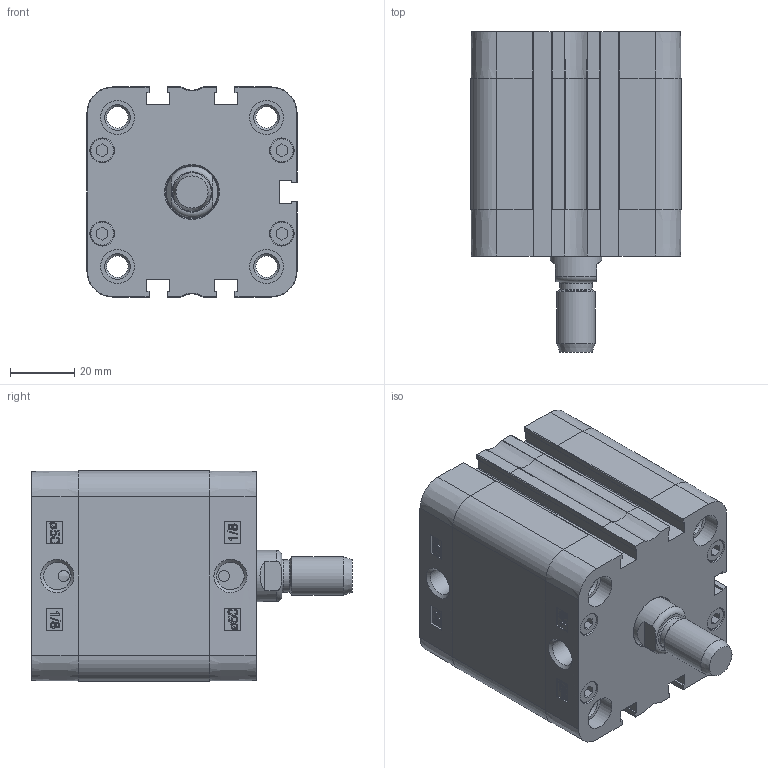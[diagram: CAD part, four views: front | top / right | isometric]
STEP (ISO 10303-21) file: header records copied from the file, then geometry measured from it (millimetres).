
FILE_DESCRIPTION((''),'2;1');
FILE_NAME('T:\Archivio Inventor\- CATALOGHI 2012\SERIE P - NUOVA\PDM\PDM050\PDM050.---.GS.M\PDM050.025.GS.M.stp','2013-02-01T12:18:05',('Administrator'),(''),'Autodesk Inventor 2012','Autodesk Inventor 2012','');
FILE_SCHEMA(('CONFIG_CONTROL_DESIGN'));
Length unit declared in the file: millimetre
Products named in the file (1): PDM050.025.GS.M
Bounding box: 65.5 x 100 x 65.5 mm (x, y, z)
Volume: 167830.9 mm3; surface area: 64805.4 mm2
Topology: 2 solids, 6 shells, 780 faces, 1860 edges, 1167 vertices
Faces by surface type: plane 335, bspline 196, cylinder 131, torus 56, cone 46, sphere 16
Full cylindrical faces by diameter (mm): 3.5 x2, 5.2 x4, 6.647 x8, 7.5 x8, 7.7 x8, 8.047 x4, 8.566 x2, 10 x1, 10.5 x8, 12 x2, 16 x1, 16.5 x1, 50 x1, 52.4 x1, 52.6 x1
Entity records: 25589 total; most frequent: CARTESIAN_POINT 8474, ORIENTED_EDGE 3488, DIRECTION 2866, EDGE_CURVE 1744, VERTEX_POINT 1148, AXIS2_PLACEMENT_3D 978, EDGE_LOOP 962, VECTOR 910
